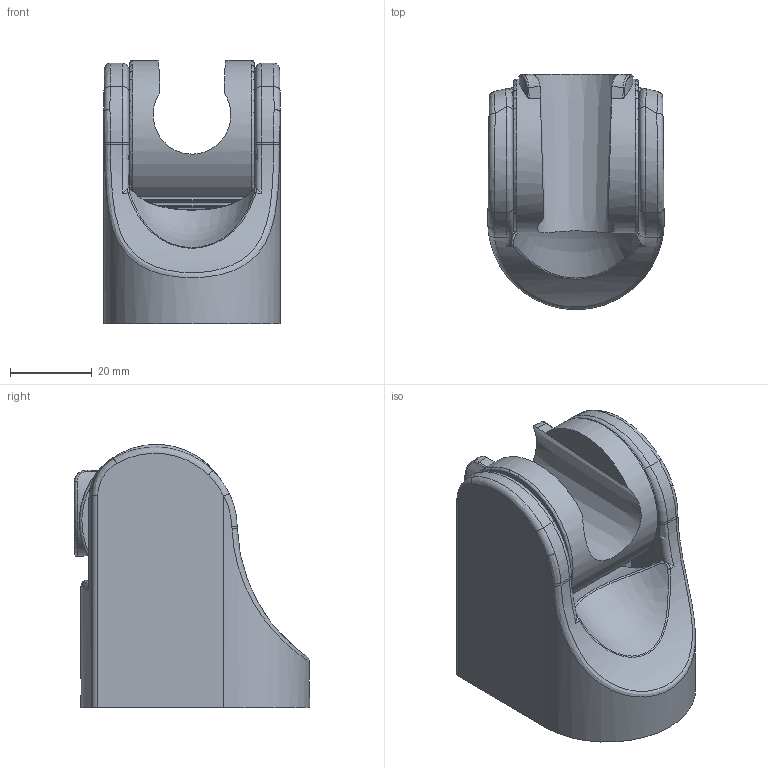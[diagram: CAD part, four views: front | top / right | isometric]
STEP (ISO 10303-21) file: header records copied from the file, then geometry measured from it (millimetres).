
FILE_DESCRIPTION(/* description */ (''),/* implementation_level */ '2;1');
FILE_NAME(/* name */ 'c:\worker\convert-fusion-r09\tmp\job-1\10\output\files\d73d5778-7ad1-465b-9caa-29f09a8a75d0\08ace95d-f458-45aa-905f-95f379404092.stp',/* time_stamp */ '2019-12-14T15:51:25+00:00',/* author */ (''),/* organization */ (''),/* preprocessor_version */ 'ST-DEVELOPER v18',/* originating_system */ 'Autodesk Translation Framework v8.12.0.6',/* authorisation */ '');
FILE_SCHEMA (('AUTOMOTIVE_DESIGN { 1 0 10303 214 3 1 1 }'));
Length unit declared in the file: millimetre
Products named in the file (1): !2060
Bounding box: 43.2 x 57.59 x 64.44 mm (x, y, z)
Volume: 43179.2 mm3; surface area: 39816.2 mm2
Topology: 3 solids, 3 shells, 482 faces, 1309 edges, 811 vertices
Faces by surface type: plane 190, cylinder 141, torus 56, bspline 53, sphere 30, cone 12
Full cylindrical faces by diameter (mm): 4.4 x2, 7.4 x2, 12.5 x2, 15.5 x2, 32 x2
Entity records: 22090 total; most frequent: CARTESIAN_POINT 10257, ORIENTED_EDGE 2566, DIRECTION 2419, EDGE_CURVE 1283, AXIS2_PLACEMENT_3D 921, VERTEX_POINT 811, LINE 577, VECTOR 577
